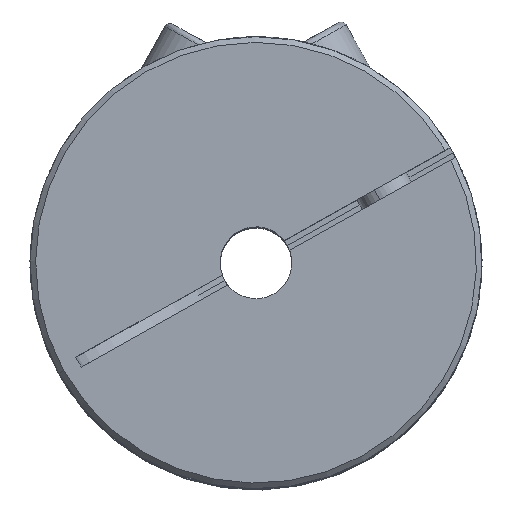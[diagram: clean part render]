
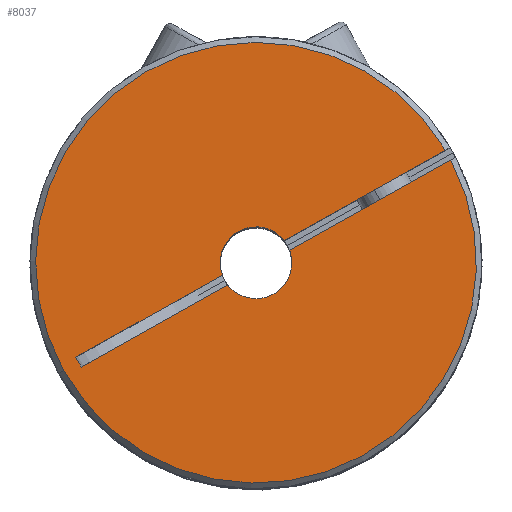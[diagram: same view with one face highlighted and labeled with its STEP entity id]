
A CAD part, top view. The second image highlights one B-rep face of the part: STEP entity #8037.
In plain terms, the highlighted planar face has unit normal (0, 0, 1) as drawn and (0, 0, -1) by its records, which use the part's own axes.
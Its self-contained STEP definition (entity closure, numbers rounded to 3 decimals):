
#72 = VERTEX_POINT ( 'NONE', #2790 ) ;
#158 = ORIENTED_EDGE ( 'NONE', *, *, #2673, .T. ) ;
#460 = DIRECTION ( 'NONE',  ( 0., 0., 1. ) ) ;
#981 = LINE ( 'NONE', #7851, #7591 ) ;
#1033 = LINE ( 'NONE', #1078, #4771 ) ;
#1066 = CARTESIAN_POINT ( 'NONE',  ( -3.135, -0.5, 0. ) ) ;
#1078 = CARTESIAN_POINT ( 'NONE',  ( 0., -0.5, 0. ) ) ;
#1212 = ORIENTED_EDGE ( 'NONE', *, *, #5538, .T. ) ;
#1274 = CARTESIAN_POINT ( 'NONE',  ( 0., 0., 0. ) ) ;
#1571 = EDGE_CURVE ( 'NONE', #72, #9279, #7342, .T. ) ;
#1657 = ORIENTED_EDGE ( 'NONE', *, *, #7608, .T. ) ;
#1777 = VERTEX_POINT ( 'NONE', #2101 ) ;
#1920 = AXIS2_PLACEMENT_3D ( 'NONE', #4812, #7849, #9249 ) ;
#2101 = CARTESIAN_POINT ( 'NONE',  ( 3.135, 0.5, 0. ) ) ;
#2303 = CARTESIAN_POINT ( 'NONE',  ( -19.494, -0.5, 0. ) ) ;
#2672 = CARTESIAN_POINT ( 'NONE',  ( 18., -0.5, 0. ) ) ;
#2673 = EDGE_CURVE ( 'NONE', #1777, #5099, #7206, .T. ) ;
#2693 = AXIS2_PLACEMENT_3D ( 'NONE', #2940, #6811, #6112 ) ;
#2790 = CARTESIAN_POINT ( 'NONE',  ( 19.5, 0., 0. ) ) ;
#2929 = AXIS2_PLACEMENT_3D ( 'NONE', #1274, #460, #7144 ) ;
#2940 = CARTESIAN_POINT ( 'NONE',  ( 0., 0., 0. ) ) ;
#2951 = DIRECTION ( 'NONE',  ( 0., 0., -1. ) ) ;
#3066 = AXIS2_PLACEMENT_3D ( 'NONE', #3740, #2951, #9115 ) ;
#3280 = DIRECTION ( 'NONE',  ( -1., 0., 0. ) ) ;
#3419 = DIRECTION ( 'NONE',  ( 1., 0., 0. ) ) ;
#3728 = LINE ( 'NONE', #8366, #8890 ) ;
#3740 = CARTESIAN_POINT ( 'NONE',  ( 0., 0., 0. ) ) ;
#3771 = VECTOR ( 'NONE', #5362, 1000. ) ;
#4028 = ORIENTED_EDGE ( 'NONE', *, *, #4883, .F. ) ;
#4380 = CARTESIAN_POINT ( 'NONE',  ( -20., 0.5, 0. ) ) ;
#4383 = VERTEX_POINT ( 'NONE', #8217 ) ;
#4563 = LINE ( 'NONE', #6102, #9217 ) ;
#4746 = AXIS2_PLACEMENT_3D ( 'NONE', #6470, #9511, #4747 ) ;
#4747 = DIRECTION ( 'NONE',  ( 1., 0., 0. ) ) ;
#4771 = VECTOR ( 'NONE', #3419, 1000. ) ;
#4812 = CARTESIAN_POINT ( 'NONE',  ( 0., 0., 0. ) ) ;
#4851 = VERTEX_POINT ( 'NONE', #6206 ) ;
#4883 = EDGE_CURVE ( 'NONE', #5051, #4851, #981, .T. ) ;
#5051 = VERTEX_POINT ( 'NONE', #2672 ) ;
#5099 = VERTEX_POINT ( 'NONE', #8735 ) ;
#5362 = DIRECTION ( 'NONE',  ( -1., 0., 0. ) ) ;
#5406 = EDGE_LOOP ( 'NONE', ( #9833, #5926, #8466, #1657, #1212, #4028, #7973, #8717, #158 ) ) ;
#5538 = EDGE_CURVE ( 'NONE', #8047, #4851, #8411, .T. ) ;
#5926 = ORIENTED_EDGE ( 'NONE', *, *, #6207, .T. ) ;
#6004 = CARTESIAN_POINT ( 'NONE',  ( 18., 0.5, 0. ) ) ;
#6102 = CARTESIAN_POINT ( 'NONE',  ( -20., 0.5, 0. ) ) ;
#6112 = DIRECTION ( 'NONE',  ( 1., 0., 0. ) ) ;
#6140 = VERTEX_POINT ( 'NONE', #6004 ) ;
#6184 = EDGE_CURVE ( 'NONE', #5051, #6140, #3728, .T. ) ;
#6206 = CARTESIAN_POINT ( 'NONE',  ( 3.135, -0.5, 0. ) ) ;
#6207 = EDGE_CURVE ( 'NONE', #4383, #72, #6669, .T. ) ;
#6297 = PLANE ( 'NONE',  #1920 ) ;
#6470 = CARTESIAN_POINT ( 'NONE',  ( 0., 0., 0. ) ) ;
#6669 = CIRCLE ( 'NONE', #2693, 19.5 ) ;
#6697 = EDGE_CURVE ( 'NONE', #5099, #4383, #4563, .T. ) ;
#6723 = DIRECTION ( 'NONE',  ( 0., 1., 0. ) ) ;
#6811 = DIRECTION ( 'NONE',  ( 0., 0., -1. ) ) ;
#7056 = FACE_OUTER_BOUND ( 'NONE', #5406, .T. ) ;
#7144 = DIRECTION ( 'NONE',  ( 1., 0., 0. ) ) ;
#7206 = CIRCLE ( 'NONE', #2929, 3.175 ) ;
#7342 = CIRCLE ( 'NONE', #3066, 19.5 ) ;
#7591 = VECTOR ( 'NONE', #3280, 1000. ) ;
#7593 = DIRECTION ( 'NONE',  ( -1., 0., 0. ) ) ;
#7608 = EDGE_CURVE ( 'NONE', #9279, #8047, #1033, .T. ) ;
#7849 = DIRECTION ( 'NONE',  ( 0., 0., 1. ) ) ;
#7851 = CARTESIAN_POINT ( 'NONE',  ( -20., -0.5, 0. ) ) ;
#7973 = ORIENTED_EDGE ( 'NONE', *, *, #6184, .T. ) ;
#8037 = ADVANCED_FACE ( 'NONE', ( #7056 ), #6297, .F. ) ;
#8047 = VERTEX_POINT ( 'NONE', #1066 ) ;
#8217 = CARTESIAN_POINT ( 'NONE',  ( -19.494, 0.5, 0. ) ) ;
#8366 = CARTESIAN_POINT ( 'NONE',  ( 18., -0.5, 0. ) ) ;
#8411 = CIRCLE ( 'NONE', #4746, 3.175 ) ;
#8466 = ORIENTED_EDGE ( 'NONE', *, *, #1571, .T. ) ;
#8717 = ORIENTED_EDGE ( 'NONE', *, *, #9033, .T. ) ;
#8735 = CARTESIAN_POINT ( 'NONE',  ( -3.135, 0.5, 0. ) ) ;
#8890 = VECTOR ( 'NONE', #6723, 1000. ) ;
#9033 = EDGE_CURVE ( 'NONE', #6140, #1777, #9145, .T. ) ;
#9115 = DIRECTION ( 'NONE',  ( 1., 0., 0. ) ) ;
#9145 = LINE ( 'NONE', #4380, #3771 ) ;
#9217 = VECTOR ( 'NONE', #7593, 1000. ) ;
#9249 = DIRECTION ( 'NONE',  ( 1., 0., 0. ) ) ;
#9279 = VERTEX_POINT ( 'NONE', #2303 ) ;
#9511 = DIRECTION ( 'NONE',  ( 0., 0., 1. ) ) ;
#9833 = ORIENTED_EDGE ( 'NONE', *, *, #6697, .T. ) ;
